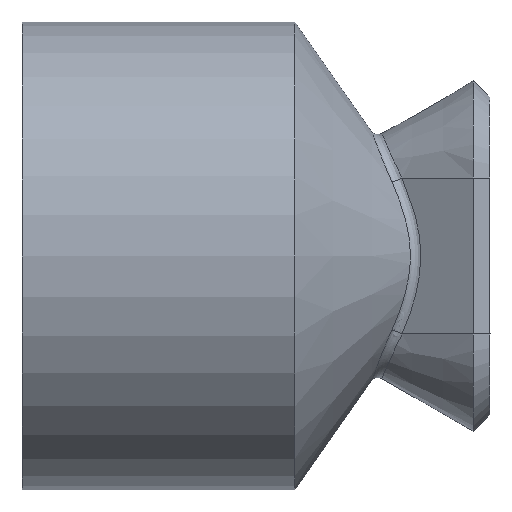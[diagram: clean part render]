
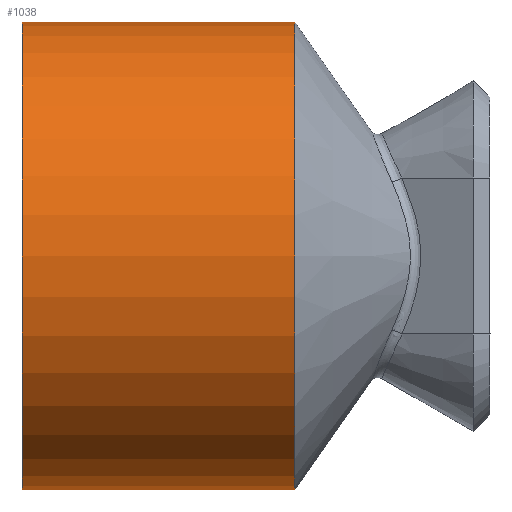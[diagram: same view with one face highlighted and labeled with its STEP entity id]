
A CAD part, left-side view. The second image highlights one B-rep face of the part: STEP entity #1038.
In plain terms, the highlighted cylindrical face has radius 3 mm (diameter 6 mm), a partial arc.
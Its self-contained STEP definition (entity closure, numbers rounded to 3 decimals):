
#37 = CARTESIAN_POINT ( 'NONE',  ( 0., 6., 3. ) ) ;
#107 = LINE ( 'NONE', #517, #616 ) ;
#305 = CARTESIAN_POINT ( 'NONE',  ( 0., 6., -3. ) ) ;
#517 = CARTESIAN_POINT ( 'NONE',  ( 0., 0., -3. ) ) ;
#605 = AXIS2_PLACEMENT_3D ( 'NONE', #3550, #2229, #3680 ) ;
#616 = VECTOR ( 'NONE', #2231, 1000. ) ;
#634 = DIRECTION ( 'NONE',  ( 0., 1., 0. ) ) ;
#775 = EDGE_CURVE ( 'NONE', #2910, #3223, #2909, .T. ) ;
#920 = DIRECTION ( 'NONE',  ( 0., 0., -1. ) ) ;
#1010 = EDGE_LOOP ( 'NONE', ( #2537, #2053, #2447, #1742 ) ) ;
#1011 = LINE ( 'NONE', #2929, #2190 ) ;
#1038 = ADVANCED_FACE ( 'NONE', ( #2644 ), #1203, .T. ) ;
#1150 = CARTESIAN_POINT ( 'NONE',  ( 0., 2.5, -3. ) ) ;
#1194 = CARTESIAN_POINT ( 'NONE',  ( 0., 2.5, 3. ) ) ;
#1203 = CYLINDRICAL_SURFACE ( 'NONE', #2393, 3. ) ;
#1535 = CIRCLE ( 'NONE', #605, 3. ) ;
#1583 = EDGE_CURVE ( 'NONE', #2679, #3229, #1535, .T. ) ;
#1742 = ORIENTED_EDGE ( 'NONE', *, *, #775, .T. ) ;
#1747 = EDGE_CURVE ( 'NONE', #2679, #3223, #1011, .T. ) ;
#2053 = ORIENTED_EDGE ( 'NONE', *, *, #1583, .T. ) ;
#2122 = CARTESIAN_POINT ( 'NONE',  ( 0., 2.5, 0. ) ) ;
#2157 = AXIS2_PLACEMENT_3D ( 'NONE', #2122, #634, #920 ) ;
#2190 = VECTOR ( 'NONE', #2475, 1000. ) ;
#2217 = DIRECTION ( 'NONE',  ( 0., -1., 0. ) ) ;
#2229 = DIRECTION ( 'NONE',  ( 0., -1., 0. ) ) ;
#2231 = DIRECTION ( 'NONE',  ( 0., -1., 0. ) ) ;
#2240 = DIRECTION ( 'NONE',  ( 0., 0., -1. ) ) ;
#2392 = EDGE_CURVE ( 'NONE', #3229, #2910, #107, .T. ) ;
#2393 = AXIS2_PLACEMENT_3D ( 'NONE', #3752, #2217, #2240 ) ;
#2447 = ORIENTED_EDGE ( 'NONE', *, *, #2392, .T. ) ;
#2475 = DIRECTION ( 'NONE',  ( 0., -1., 0. ) ) ;
#2537 = ORIENTED_EDGE ( 'NONE', *, *, #1747, .F. ) ;
#2644 = FACE_OUTER_BOUND ( 'NONE', #1010, .T. ) ;
#2679 = VERTEX_POINT ( 'NONE', #37 ) ;
#2909 = CIRCLE ( 'NONE', #2157, 3. ) ;
#2910 = VERTEX_POINT ( 'NONE', #1150 ) ;
#2929 = CARTESIAN_POINT ( 'NONE',  ( 0., 0., 3. ) ) ;
#3223 = VERTEX_POINT ( 'NONE', #1194 ) ;
#3229 = VERTEX_POINT ( 'NONE', #305 ) ;
#3550 = CARTESIAN_POINT ( 'NONE',  ( 0., 6., 0. ) ) ;
#3680 = DIRECTION ( 'NONE',  ( 0., 0., -1. ) ) ;
#3752 = CARTESIAN_POINT ( 'NONE',  ( 0., 0., 0. ) ) ;
